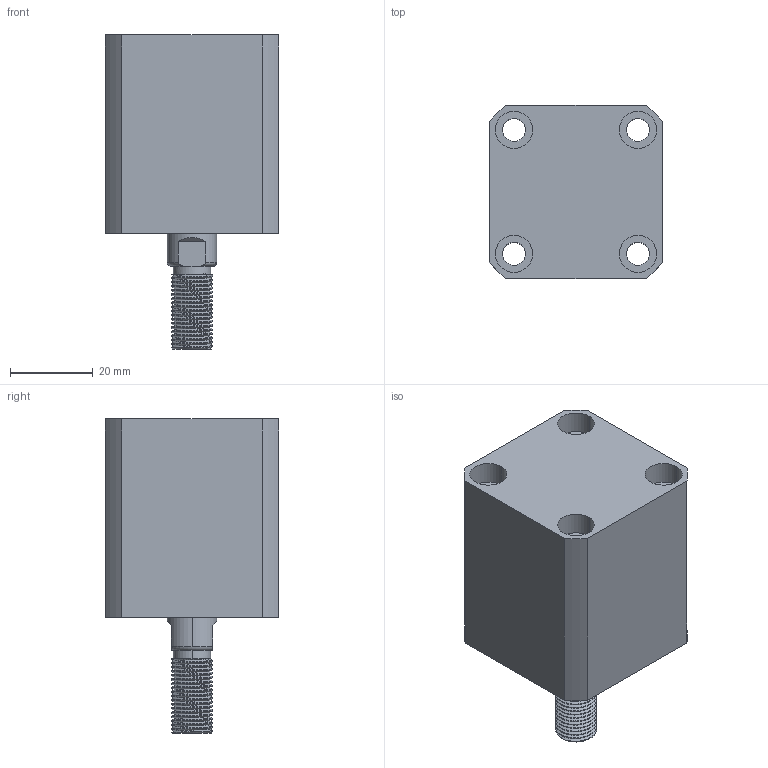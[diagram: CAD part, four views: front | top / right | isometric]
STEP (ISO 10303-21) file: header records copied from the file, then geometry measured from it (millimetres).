
FILE_DESCRIPTION (( 'STEP AP214' ), '1' );
FILE_NAME ('chtb-sd20x5w_asm.STEP', '2018-05-16T10:02:18', ( 'Windows' ), ( 'Microsoft' ), 'SwSTEP 2.0', 'SolidWorks 2015', '' );
FILE_SCHEMA (( 'AUTOMOTIVE_DESIGN' ));
Length unit declared in the file: millimetre
Products named in the file (4): QG; CHTB-SD20X5WHSG; CHTB-SD20X5NBT; chtb-sd20x5w_asm
Assembly tree (3 placements, depth 2):
  chtb-sd20x5w_asm
    CHTB-SD20X5NBT
    CHTB-SD20X5WHSG
    QG
Bounding box: 42 x 42 x 76 mm (x, y, z)
Volume: 75129 mm3; surface area: 26932.7 mm2
Topology: 3 solids, 3 shells, 234 faces, 624 edges, 415 vertices
Faces by surface type: cylinder 139, plane 40, torus 25, bspline 21, cone 9
Entity records: 13734 total; most frequent: CARTESIAN_POINT 8172, ORIENTED_EDGE 1240, DIRECTION 1039, EDGE_CURVE 620, AXIS2_PLACEMENT_3D 431, VERTEX_POINT 415, EDGE_LOOP 271, ADVANCED_FACE 234
